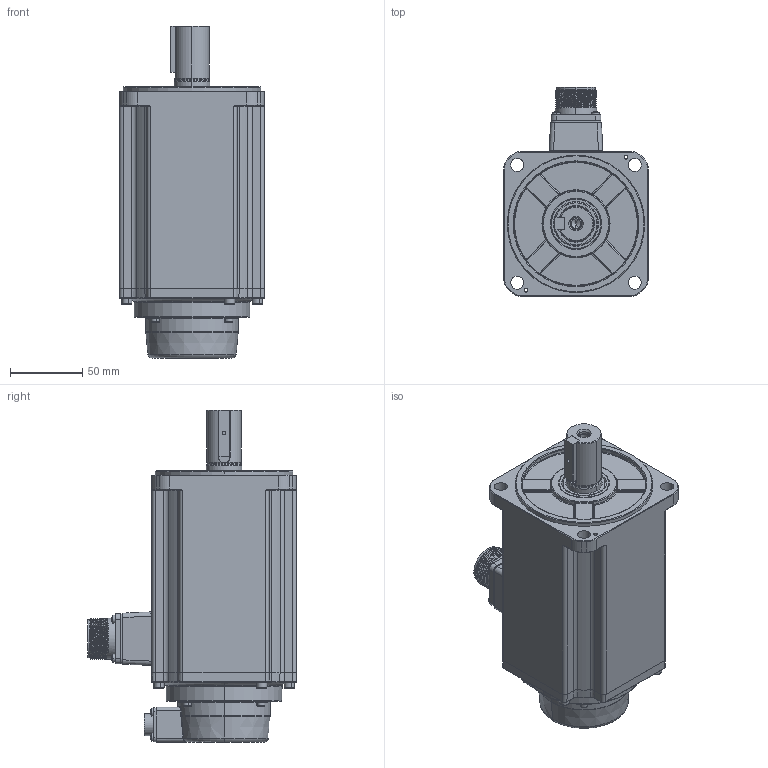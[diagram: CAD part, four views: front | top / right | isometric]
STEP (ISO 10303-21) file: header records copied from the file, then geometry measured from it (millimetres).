
FILE_DESCRIPTION (( 'STEP AP214' ), '1' );
FILE_NAME ('RSK1-S-100-2.5kw.STEP', '2024-08-22T06:48:52', ( '' ), ( '' ), 'SwSTEP 2.0', 'SolidWorks 2020', '' );
FILE_SCHEMA (( 'AUTOMOTIVE_DESIGN' ));
Length unit declared in the file: millimetre
Products named in the file (14): 100-梓袧綴傷裔; 蚐猾_TC25x35x5; 坋趼羞攫芛蹟隊_M3x30; RSK1-S-100-2.5kw; す瑩_B8x7x32; 100-S-24粣噤; 内六角圆柱头螺钉_M4x16; 雄薯瑤脣; ﾊｮﾗﾖｲﾛﾅﾌﾍｷﾗﾔｼｷﾂﾝｶ､_M3x8; 130雄薯瑤脣價釱; 4140000005_电机内部编码器线_7x26AWG(0.1m-CMV1-10芯螺纹插座_GACJ3045); 内六角圆柱头和平垫圈组合螺钉_M3x16; 100-S-2.5kw儂褲; 130梓袧綴裔
Assembly tree (25 placements, depth 2):
  RSK1-S-100-2.5kw
    100-S-2.5kw儂褲
    100-梓袧綴傷裔
    坋趼羞攫芛蹟隊_M3x30  x4
    130雄薯瑤脣價釱
    雄薯瑤脣
    内六角圆柱头螺钉_M4x16  x4
    130梓袧綴裔
    4140000005_电机内部编码器线_7x26AWG(0.1m-CMV1-10芯螺纹插座_GACJ3045)
    ﾊｮﾗﾖｲﾛﾅﾌﾍｷﾗﾔｼｷﾂﾝｶ､_M3x8  x4
    内六角圆柱头和平垫圈组合螺钉_M3x16  x4
    100-S-24粣噤
    す瑩_B8x7x32
    蚐猾_TC25x35x5
Bounding box: 100 x 144.4 x 229.4 mm (x, y, z)
Volume: 1480774.4 mm3; surface area: 156145.7 mm2
Topology: 35 solids, 35 shells, 2542 faces, 6328 edges, 3941 vertices
Faces by surface type: plane 1233, cylinder 653, cone 290, torus 174, bspline 132, sphere 60
Entity records: 92903 total; most frequent: CARTESIAN_POINT 24171, DIRECTION 10968, ORIENTED_EDGE 10960, EDGE_CURVE 5480, AXIS2_PLACEMENT_3D 3836, VERTEX_POINT 3455, VECTOR 3296, LINE 3296
